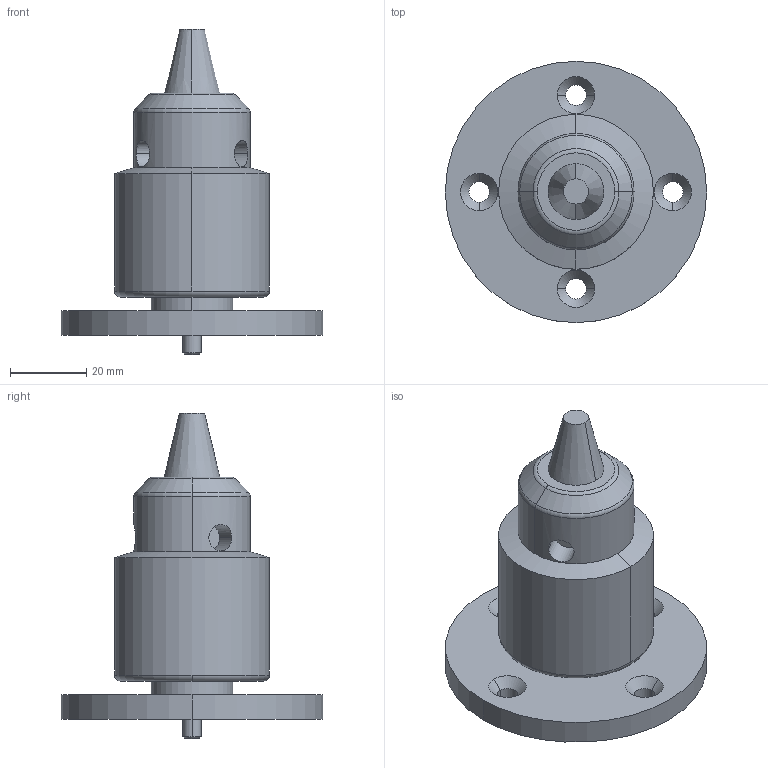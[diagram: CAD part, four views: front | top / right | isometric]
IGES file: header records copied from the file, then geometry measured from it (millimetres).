
Global section: file name: No Iges File Name specified; native system: Autodesk Inventor 2010; preprocessor: AutoDesk Inventor Iges Exporter R2010; author: mlampen; date: 20170621.165409; units: inch
Bounding box: 68.58 x 68.58 x 85.28 mm (x, y, z)
Volume: 81726.8 mm3; surface area: 17665.3 mm2
Topology: 1 solids, 1 shells, 55 faces, 128 edges, 82 vertices
Faces by surface type: revolution 22, cylinder 10, plane 9, cone 8, torus 6
